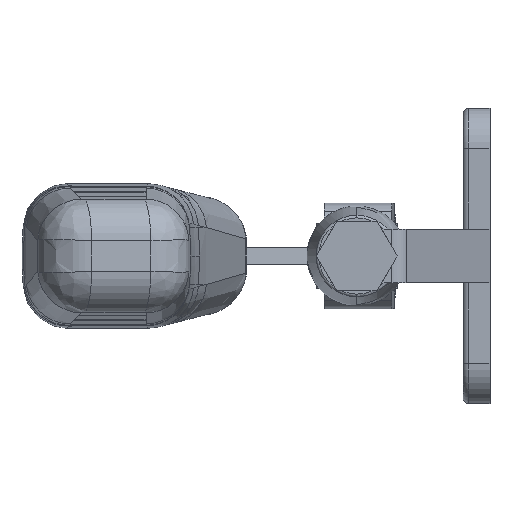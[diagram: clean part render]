
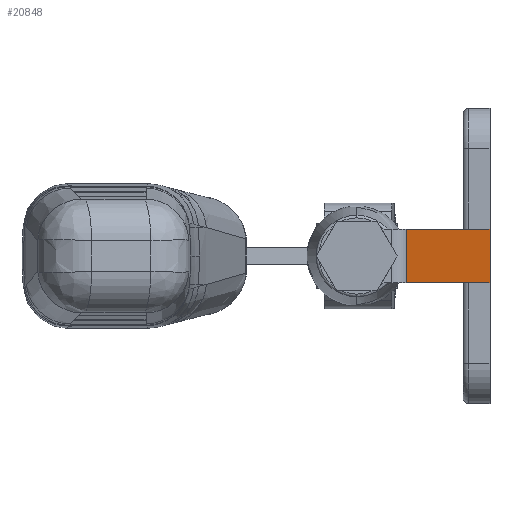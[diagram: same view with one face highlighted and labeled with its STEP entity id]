
A CAD part, left-side view. The second image highlights one B-rep face of the part: STEP entity #20848.
In plain terms, the highlighted planar face has unit normal (-0.488, -0.873, 0) as drawn and (0, -0.873, -0.488) by its records, which use the part's own axes.
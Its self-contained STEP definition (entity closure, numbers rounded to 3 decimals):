
#1472 = CARTESIAN_POINT ( 'NONE',  ( 5., 15.642, -52.965 ) ) ;
#2185 = DIRECTION ( 'NONE',  ( 1., 0., 0. ) ) ;
#2899 = DIRECTION ( 'NONE',  ( -1., 0., 0. ) ) ;
#3622 = VECTOR ( 'NONE', #17051, 1000. ) ;
#3657 = EDGE_LOOP ( 'NONE', ( #25073, #24919, #8085, #11225 ) ) ;
#4321 = EDGE_CURVE ( 'NONE', #24238, #10387, #14313, .T. ) ;
#7533 = VECTOR ( 'NONE', #2185, 1000. ) ;
#8085 = ORIENTED_EDGE ( 'NONE', *, *, #17750, .F. ) ;
#9580 = EDGE_CURVE ( 'NONE', #10387, #19247, #21558, .T. ) ;
#9603 = DIRECTION ( 'NONE',  ( 0., 0.873, 0.488 ) ) ;
#10226 = CARTESIAN_POINT ( 'NONE',  ( -5., 16.5, -54.501 ) ) ;
#10387 = VERTEX_POINT ( 'NONE', #26114 ) ;
#10416 = LINE ( 'NONE', #22219, #28344 ) ;
#11225 = ORIENTED_EDGE ( 'NONE', *, *, #4321, .T. ) ;
#12209 = CARTESIAN_POINT ( 'NONE',  ( 5., 0., -25. ) ) ;
#12922 = DIRECTION ( 'NONE',  ( 0., 0.488, -0.873 ) ) ;
#14313 = LINE ( 'NONE', #12209, #25284 ) ;
#15231 = LINE ( 'NONE', #18461, #7533 ) ;
#16674 = CARTESIAN_POINT ( 'NONE',  ( -5., 15.642, -52.965 ) ) ;
#17051 = DIRECTION ( 'NONE',  ( 0., 0.488, -0.873 ) ) ;
#17347 = FACE_OUTER_BOUND ( 'NONE', #3657, .T. ) ;
#17750 = EDGE_CURVE ( 'NONE', #24238, #27449, #10416, .T. ) ;
#18461 = CARTESIAN_POINT ( 'NONE',  ( 5., 15.642, -52.965 ) ) ;
#18661 = EDGE_CURVE ( 'NONE', #19247, #27449, #15231, .T. ) ;
#18903 = PLANE ( 'NONE',  #26351 ) ;
#19247 = VERTEX_POINT ( 'NONE', #16674 ) ;
#20848 = ADVANCED_FACE ( 'NONE', ( #17347 ), #18903, .F. ) ;
#21558 = LINE ( 'NONE', #10226, #3622 ) ;
#22219 = CARTESIAN_POINT ( 'NONE',  ( 5., 16.5, -54.501 ) ) ;
#23451 = CARTESIAN_POINT ( 'NONE',  ( 5., 0., -25. ) ) ;
#23603 = CARTESIAN_POINT ( 'NONE',  ( 5., 16.5, -54.501 ) ) ;
#24238 = VERTEX_POINT ( 'NONE', #23451 ) ;
#24919 = ORIENTED_EDGE ( 'NONE', *, *, #18661, .T. ) ;
#25073 = ORIENTED_EDGE ( 'NONE', *, *, #9580, .T. ) ;
#25284 = VECTOR ( 'NONE', #2899, 1000. ) ;
#25970 = DIRECTION ( 'NONE',  ( 0., -0.488, 0.873 ) ) ;
#26114 = CARTESIAN_POINT ( 'NONE',  ( -5., 0., -25. ) ) ;
#26351 = AXIS2_PLACEMENT_3D ( 'NONE', #23603, #9603, #25970 ) ;
#27449 = VERTEX_POINT ( 'NONE', #1472 ) ;
#28344 = VECTOR ( 'NONE', #12922, 1000. ) ;
